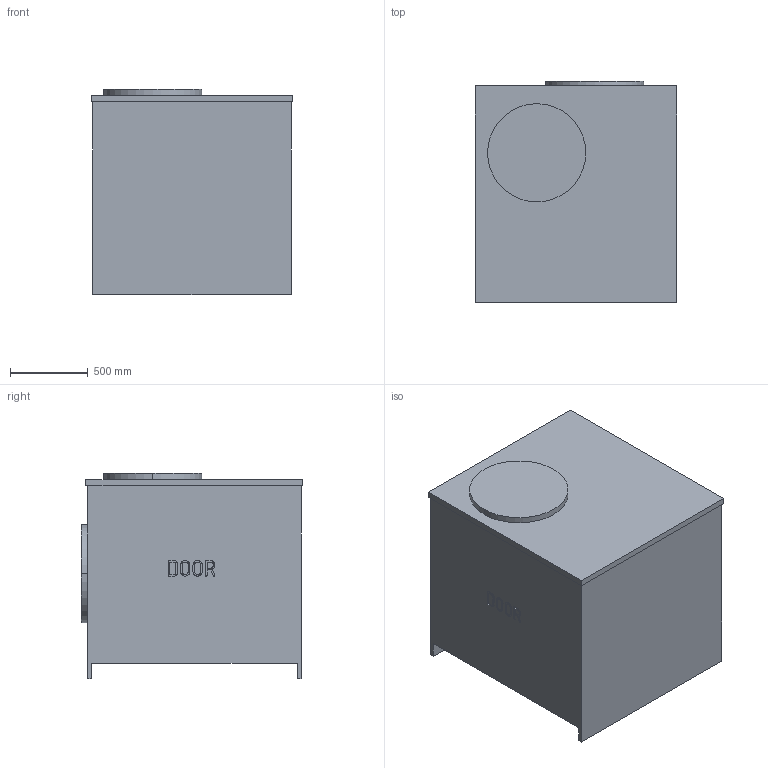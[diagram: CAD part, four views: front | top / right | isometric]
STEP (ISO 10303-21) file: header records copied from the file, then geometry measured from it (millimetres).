
FILE_DESCRIPTION(('STEP AP214'),'1');
FILE_NAME('Soundbox 560_630.stp','2019-11-26T10:21:25',(' '),(' '),'Spatial InterOp 3D',' ',' ');
FILE_SCHEMA(('AUTOMOTIVE_DESIGN { 1 0 10303 214 1 1 1 1 }'));
Length unit declared in the file: metre
Products named in the file (1): Solid1
Bounding box: 1290 x 1420 x 1317 mm (x, y, z)
Volume: 2081227505.7 mm3; surface area: 10490257.4 mm2
Topology: 1 solids, 1 shells, 87 faces, 222 edges, 148 vertices
Faces by surface type: plane 50, extrusion 33, cylinder 4
Entity records: 2958 total; most frequent: CARTESIAN_POINT 939, ORIENTED_EDGE 444, DIRECTION 307, EDGE_CURVE 222, VECTOR 181, VERTEX_POINT 148, LINE 148, B_SPLINE_CURVE_WITH_KNOTS 99
